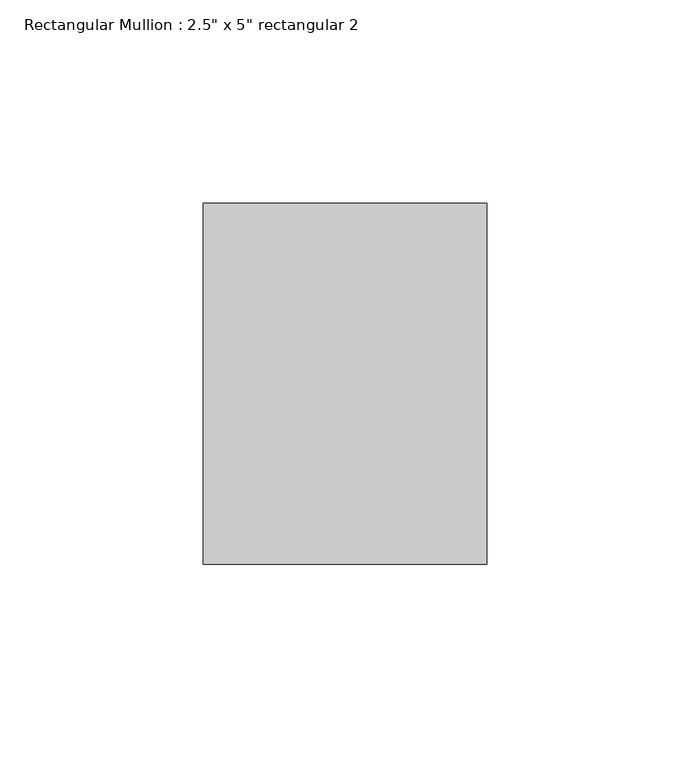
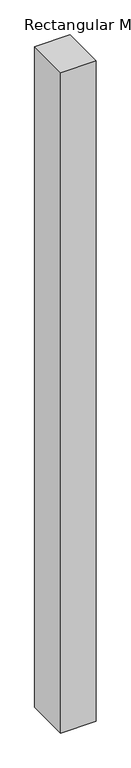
"""IFC4 building model written with IfcOpenShell, lengths in millimetres: member geometry."""

from ifc_helpers import new_model, si_unit, frame, origin, place, context, project, spatial, polyline, outline, extrude, source, transform, mapped, element, save


def member_0a0ddee2(model_context):
    return source(origin(), model_context, "Body", "SweptSolid", [
        extrude(outline(polyline([(38.1, 44.45), (38.1, -44.45), (-31.75, -44.45), (-31.75, 44.45), (38.1, 44.45)])), frame((0.0, 0.0, -1375.935445), z_axis=(0.0, 0.0, 1.0), x_axis=(1.0, 0.0, 0.0)), (0.0, 0.0, 1.0), 1375.935445),
    ])


if __name__ == "__main__":
    model = new_model("IFC4")
    model_context = context("Model", 3, world=origin())
    ifc_project = project(units=[si_unit("LENGTHUNIT", "METRE", prefix="MILLI")], contexts=[model_context])
    site = spatial("IfcSite", under=ifc_project)
    building = spatial("IfcBuilding", under=site)
    placement = place(None, origin())
    member_shape = member_0a0ddee2(model_context)
    element("IfcMember", 1, ObjectType="Rectangular Mullion : 2.5\" x 5\" rectangular 2", at=placement, inside=building, context=model_context, shape_type="MappedRepresentation", body=[
        mapped(member_shape, transform((0.0, 0.0, 0.0), x_axis=(1.0, 0.0, 0.0), y_axis=(0.0, 1.0, 0.0), z_axis=(0.0, 0.0, 1.0))),
    ])
    save(model, "model.ifc")
